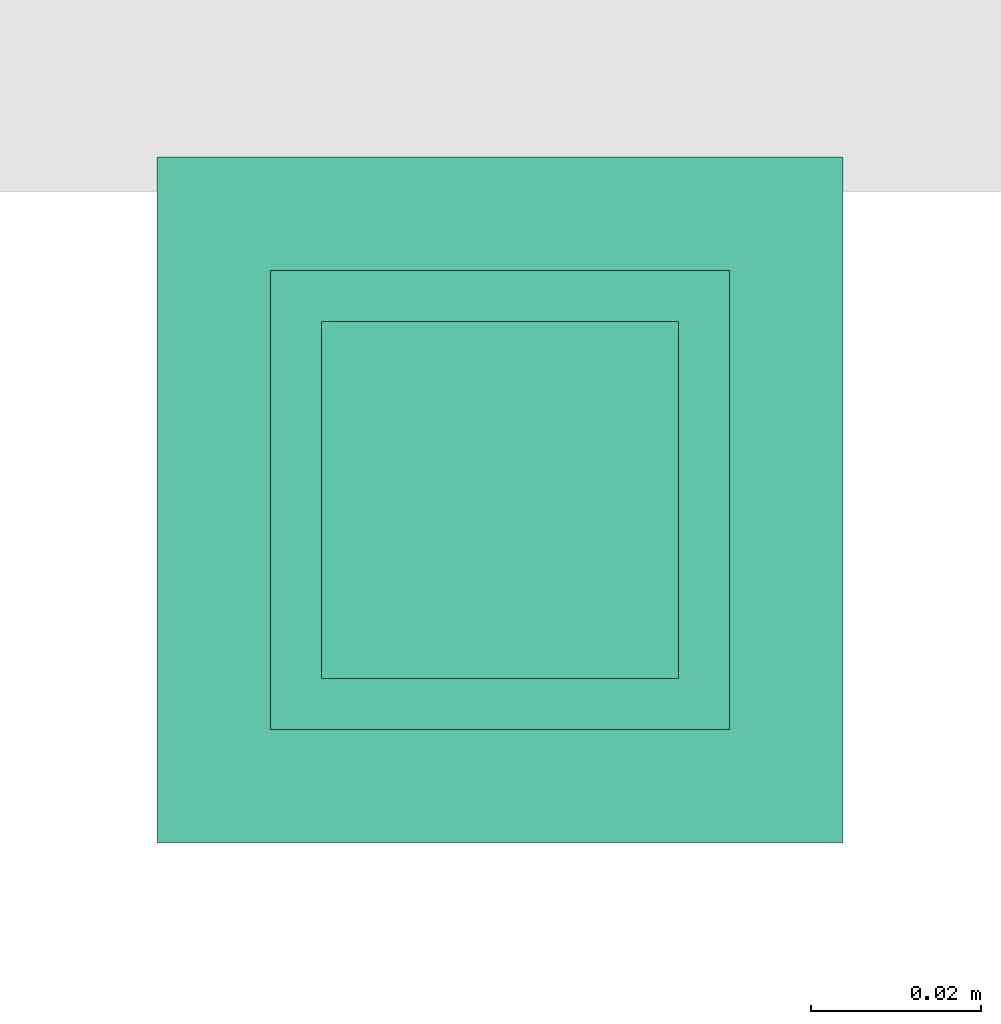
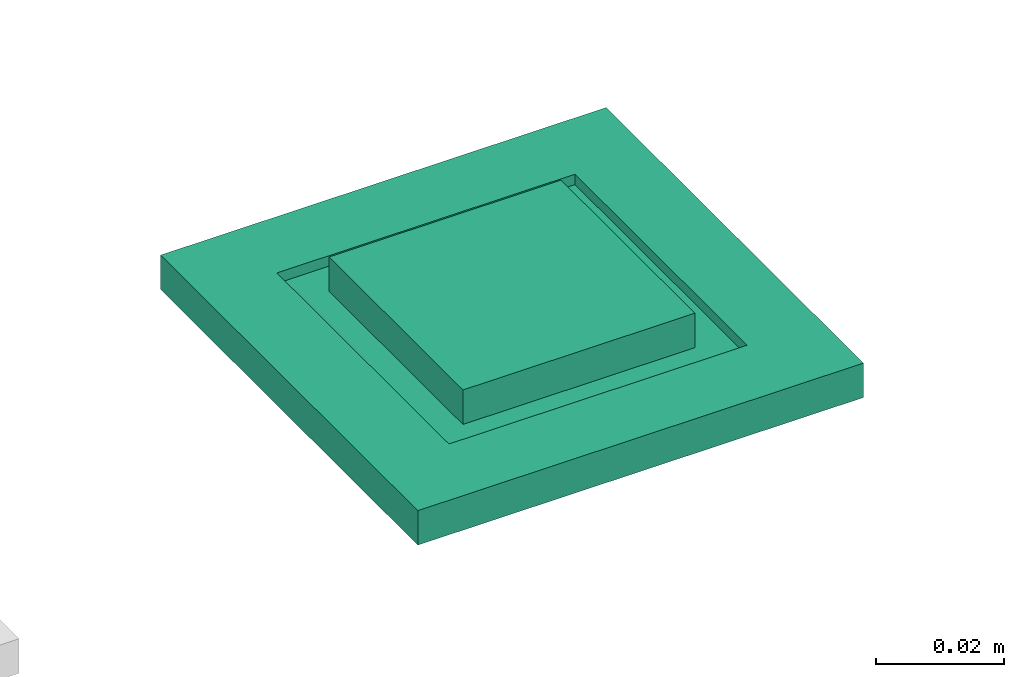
# One storey, part 19 of 146: 1 flow terminal.
"""IFC2X3 building model written with IfcOpenShell, lengths in metres."""

from ifc_helpers import new_model, entity, si_unit, converted_unit, derived_unit, direction, frame, origin, place, context, subcontext, project, spatial, faceted_brep, source, transform, mapped, type_object, type_shapes, element, save


model = new_model("IFC2X3")

# Units and contexts
model_context = context("Model", 3, precision=1e-05, world=origin(), true_north=direction((6.12303176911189e-17, 1.0)))
body_context = subcontext(model_context, "Body", "Model", "MODEL_VIEW")
ifc_project = project(units=[si_unit("LENGTHUNIT", "METRE"), si_unit("AREAUNIT", "SQUARE_METRE"), si_unit("VOLUMEUNIT", "CUBIC_METRE"), converted_unit("PLANEANGLEUNIT", "DEGREE", entity("IfcRatioMeasure", 0.0174532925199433), si_unit("PLANEANGLEUNIT", "RADIAN"), dimensions=[0, 0, 0, 0, 0, 0, 0]), si_unit("MASSUNIT", "GRAM", prefix="KILO"), derived_unit("MASSDENSITYUNIT", [(si_unit("MASSUNIT", "GRAM", prefix="KILO"), 1), (si_unit("LENGTHUNIT", "METRE"), -3)]), si_unit("TIMEUNIT", "SECOND"), si_unit("FREQUENCYUNIT", "HERTZ"), si_unit("THERMODYNAMICTEMPERATUREUNIT", "DEGREE_CELSIUS"), derived_unit("THERMALTRANSMITTANCEUNIT", [(si_unit("MASSUNIT", "GRAM", prefix="KILO"), 1), (si_unit("THERMODYNAMICTEMPERATUREUNIT", "KELVIN"), -1), (si_unit("TIMEUNIT", "SECOND"), -3)]), derived_unit("VOLUMETRICFLOWRATEUNIT", [(si_unit("LENGTHUNIT", "METRE"), 3), (si_unit("TIMEUNIT", "SECOND"), -1)]), si_unit("ELECTRICCURRENTUNIT", "AMPERE"), si_unit("ELECTRICVOLTAGEUNIT", "VOLT"), si_unit("POWERUNIT", "WATT"), si_unit("FORCEUNIT", "NEWTON"), si_unit("ILLUMINANCEUNIT", "LUX"), si_unit("LUMINOUSFLUXUNIT", "LUMEN"), si_unit("LUMINOUSINTENSITYUNIT", "CANDELA"), derived_unit("USERDEFINED", [(si_unit("MASSUNIT", "GRAM", prefix="KILO"), -1), (si_unit("LENGTHUNIT", "METRE"), -2), (si_unit("TIMEUNIT", "SECOND"), 3), (si_unit("LUMINOUSFLUXUNIT", "LUMEN"), 1)]), derived_unit("LINEARVELOCITYUNIT", [(si_unit("LENGTHUNIT", "METRE"), 1), (si_unit("TIMEUNIT", "SECOND"), -1)]), si_unit("PRESSUREUNIT", "PASCAL"), derived_unit("USERDEFINED", [(si_unit("LENGTHUNIT", "METRE"), -2), (si_unit("MASSUNIT", "GRAM", prefix="KILO"), 1), (si_unit("TIMEUNIT", "SECOND"), -2)])], contexts=[model_context])

# Site, building, storey
site_placement = place(None, origin())
site = spatial("IfcSite", under=ifc_project, at=site_placement, Name="Default", CompositionType="ELEMENT")
building_placement = place(site_placement, origin())
building = spatial("IfcBuilding", under=site, at=building_placement, CompositionType="ELEMENT")
storey_placement = place(building_placement, origin())
storey = spatial("IfcBuildingStorey", under=building, at=storey_placement, Name="S01", CompositionType="ELEMENT", Elevation=0.0)

# Flow terminal
electric_appliance_type = type_object("IfcElectricApplianceType", Name="RJ45 IP21", PredefinedType="NOTDEFINED")
shared_shape = source(origin(), body_context, "Body", "Brep", [
    faceted_brep([(0.00200000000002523, 0.0, 0.00799999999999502), (0.00400000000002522, 0.0, 0.00799999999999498), (0.00500000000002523, 0.00199999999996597, 0.00799999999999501), (0.0110000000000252, 0.00199999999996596, 0.00799999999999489), (0.0120000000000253, 0.0, 0.00799999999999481), (0.0140000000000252, 0.0, 0.00799999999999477), (0.0140000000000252, 0.00399999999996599, 0.00799999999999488), (0.00200000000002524, 0.00399999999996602, 0.00799999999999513), (0.00200000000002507, 0.0, 0.0), (0.00200000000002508, 0.00399999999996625, 0.0), (0.0140000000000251, 0.00399999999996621, 0.0), (0.0140000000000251, 0.0, 0.0), (0.0120000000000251, 0.0, 0.0), (0.0110000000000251, 0.00199999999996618, 0.0), (0.00500000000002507, 0.0019999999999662, 0.0), (0.00400000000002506, 0.0, 0.0)], [[[0, 1, 2, 3, 4, 5, 6, 7]], [[8, 9, 10, 11, 12, 13, 14, 15]], [[1, 0, 8, 15]], [[2, 1, 15, 14]], [[3, 2, 14, 13]], [[4, 3, 13, 12]], [[5, 4, 12, 11]], [[6, 5, 11, 10]], [[7, 6, 10, 9]], [[0, 7, 9, 8]]]),
    faceted_brep([(-0.0139999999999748, 0.0, 0.00799999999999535), (-0.0119999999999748, 0.0, 0.00799999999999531), (-0.0109999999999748, 0.00199999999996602, 0.00799999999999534), (-0.00499999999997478, 0.00199999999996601, 0.00799999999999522), (-0.0039999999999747, 0.0, 0.00799999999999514), (-0.00199999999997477, 0.0, 0.0079999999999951), (-0.00199999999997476, 0.00399999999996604, 0.00799999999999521), (-0.0139999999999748, 0.00399999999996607, 0.00799999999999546), (-0.0139999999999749, 0.0, 0.0), (-0.0139999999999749, 0.00399999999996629, 0.0), (-0.00199999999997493, 0.00399999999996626, 0.0), (-0.00199999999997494, 0.0, 0.0), (-0.00399999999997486, 0.0, 0.0), (-0.00499999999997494, 0.00199999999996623, 0.0), (-0.0109999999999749, 0.00199999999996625, 0.0), (-0.0119999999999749, 0.0, 0.0)], [[[0, 1, 2, 3, 4, 5, 6, 7]], [[8, 9, 10, 11, 12, 13, 14, 15]], [[1, 0, 8, 15]], [[2, 1, 15, 14]], [[3, 2, 14, 13]], [[4, 3, 13, 12]], [[5, 4, 12, 11]], [[6, 5, 11, 10]], [[7, 6, 10, 9]], [[0, 7, 9, 8]]]),
    faceted_brep([(0.0140000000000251, 0.00399999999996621, 0.0), (0.00200000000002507, 0.00399999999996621, 0.0), (0.00200000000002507, -0.00350000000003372, 0.0), (0.0140000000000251, -0.00350000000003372, 0.0), (0.0140000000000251, 0.00399999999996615, 0.00199999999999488), (0.00200000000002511, 0.00399999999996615, 0.00199999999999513), (0.00200000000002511, -0.00393859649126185, 0.00199999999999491), (0.0140000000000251, -0.00393859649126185, 0.00199999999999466), (0.0210000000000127, 0.0209999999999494, 0.00199999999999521), (-0.0209999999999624, 0.0209999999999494, 0.00199999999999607), (-0.0209999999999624, -0.0210000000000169, 0.00199999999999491), (0.0210000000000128, -0.0210000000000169, 0.00199999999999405), (-0.0139999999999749, 0.0039999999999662, 0.00199999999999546), (-0.0019999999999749, 0.0039999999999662, 0.00199999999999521), (-0.00199999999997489, -0.0039385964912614, 0.00199999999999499), (-0.0139999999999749, -0.00393859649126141, 0.00199999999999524), (0.0210000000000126, 0.0209999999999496, -0.00460000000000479), (0.0210000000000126, -0.0210000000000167, -0.00460000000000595), (-0.0209999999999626, -0.0210000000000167, -0.00460000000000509), (-0.0209999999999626, 0.0209999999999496, -0.00460000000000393), (-0.00199999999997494, 0.00399999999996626, 0.0), (-0.0139999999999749, 0.00399999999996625, 0.0), (-0.0139999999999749, -0.00350000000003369, 0.0), (-0.00199999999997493, -0.00350000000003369, 0.0)], [[[0, 1, 2, 3]], [[1, 0, 4, 5]], [[2, 1, 5, 6]], [[3, 2, 6, 7]], [[0, 3, 7, 4]], [[5, 4, 7, 6], [8, 9, 10, 11], [12, 13, 14, 15]], [[16, 17, 18, 19]], [[9, 8, 16, 19]], [[10, 9, 19, 18]], [[11, 10, 18, 17]], [[8, 11, 17, 16]], [[20, 21, 22, 23]], [[21, 20, 13, 12]], [[22, 21, 12, 15]], [[23, 22, 15, 14]], [[20, 23, 14, 13]]], outer=[[True], [True], [True], [True], [True], [False, True, False], [True], [True], [True], [True], [True], [True], [True], [True], [True], [True]]),
    faceted_brep([(0.0270000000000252, 0.026999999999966, 0.0113999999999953), (-0.0269999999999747, 0.026999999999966, 0.0113999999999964), (-0.0269999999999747, -0.0270000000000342, 0.0113999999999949), (0.0270000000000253, -0.0270000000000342, 0.0113999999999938), (0.0020000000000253, 0.00399999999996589, 0.0113999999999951), (0.0140000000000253, 0.00399999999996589, 0.0113999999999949), (0.0140000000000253, -0.00600000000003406, 0.0113999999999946), (0.0020000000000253, -0.00600000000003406, 0.0113999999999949), (-0.0139999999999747, 0.00399999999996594, 0.0113999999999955), (-0.00199999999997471, 0.00399999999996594, 0.0113999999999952), (-0.00199999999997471, -0.0060000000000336, 0.0113999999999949), (-0.0139999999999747, -0.00600000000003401, 0.0113999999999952), (0.0270000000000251, 0.0269999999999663, 0.00199999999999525), (0.0270000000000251, -0.0270000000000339, 0.00199999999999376), (-0.0269999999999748, -0.0270000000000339, 0.00199999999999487), (-0.0269999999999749, 0.0269999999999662, 0.00199999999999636), (0.0140000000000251, 0.00399999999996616, 0.00199999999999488), (0.00200000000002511, 0.00399999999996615, 0.00199999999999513), (0.00200000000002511, -0.00393859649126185, 0.00199999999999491), (0.0140000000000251, -0.00393859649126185, 0.00199999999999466), (-0.00199999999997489, 0.0039999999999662, 0.00199999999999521), (-0.0139999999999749, 0.0039999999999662, 0.00199999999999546), (-0.0139999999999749, -0.0039385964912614, 0.00199999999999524), (-0.00199999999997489, -0.0039385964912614, 0.00199999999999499)], [[[0, 1, 2, 3], [4, 5, 6, 7], [8, 9, 10, 11]], [[12, 13, 14, 15], [16, 17, 18, 19], [20, 21, 22, 23]], [[1, 0, 12, 15]], [[2, 1, 15, 14]], [[3, 2, 14, 13]], [[0, 3, 13, 12]], [[4, 17, 16, 5]], [[17, 4, 7, 18]], [[18, 7, 6, 19]], [[5, 16, 19, 6]], [[8, 21, 20, 9]], [[21, 8, 11, 22]], [[22, 11, 10, 23]], [[9, 20, 23, 10]]]),
    faceted_brep([(0.027000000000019, 0.0269999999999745, 0.00659999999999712), (-0.0269999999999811, 0.0269999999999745, 0.00659999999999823), (-0.026999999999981, -0.0270000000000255, 0.00659999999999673), (0.027000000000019, -0.0270000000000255, 0.00659999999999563), (0.040350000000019, 0.0403499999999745, 0.00659999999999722), (0.040350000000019, -0.0403500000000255, 0.00659999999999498), (-0.0403499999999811, -0.0403500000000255, 0.00659999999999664), (-0.0403499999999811, 0.0403499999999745, 0.00659999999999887), (-0.026999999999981, 0.0269999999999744, 0.0103999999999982), (0.027000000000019, 0.0269999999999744, 0.0103999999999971), (-0.026999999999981, -0.0270000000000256, 0.0103999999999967), (0.027000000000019, -0.0270000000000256, 0.0103999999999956)], [[[0, 1, 2, 3], [4, 5, 6, 7]], [[4, 7, 8, 9]], [[7, 6, 10, 8]], [[6, 5, 11, 10]], [[5, 4, 9, 11]], [[0, 9, 8, 1]], [[1, 8, 10, 2]], [[2, 10, 11, 3]], [[9, 0, 3, 11]]], outer=[[False, True], [True], [True], [True], [True], [True], [True], [True], [True]]),
    faceted_brep([(0.040350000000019, 0.0403499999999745, 0.00659999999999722), (-0.0403499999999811, 0.0403499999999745, 0.00659999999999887), (-0.0403499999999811, -0.0403500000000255, 0.00659999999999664), (0.040350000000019, -0.0403500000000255, 0.00659999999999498), (-0.0269999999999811, 0.0269999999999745, 0.00659999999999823), (0.0270000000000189, 0.0269999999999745, 0.00659999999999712), (0.0270000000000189, -0.0270000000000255, 0.00659999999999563), (-0.0269999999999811, -0.0270000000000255, 0.00659999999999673), (0.0403500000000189, 0.0403499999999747, 0.0), (0.0403500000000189, -0.0403500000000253, 0.0), (-0.0403499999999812, -0.0403500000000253, 0.0), (-0.0403499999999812, 0.0403499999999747, 0.0), (0.0270000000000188, 0.0269999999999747, 0.0), (-0.0269999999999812, 0.0269999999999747, 0.0), (-0.0269999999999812, -0.0270000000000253, 0.0), (0.0270000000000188, -0.0270000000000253, 0.0)], [[[0, 1, 2, 3], [4, 5, 6, 7]], [[8, 9, 10, 11], [12, 13, 14, 15]], [[1, 0, 8, 11]], [[2, 1, 11, 10]], [[3, 2, 10, 9]], [[0, 3, 9, 8]], [[12, 5, 4, 13]], [[13, 4, 7, 14]], [[14, 7, 6, 15]], [[5, 12, 15, 6]]]),
])
type_shapes(electric_appliance_type, [shared_shape])
flow_terminal_placement = place(storey_placement, frame((27.9920084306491, -189.582721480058, 3.37), z_axis=(0.0, 0.0, -1.0), x_axis=(-1.0, 0.0, 0.0)))
element("IfcFlowTerminal", 1, at=flow_terminal_placement, inside=storey, type_object=electric_appliance_type, Name="INT_Prise RJ45:RJ45 IP21", ObjectType="INT_Prise RJ45:RJ45 IP21", context=body_context, shape_type="MappedRepresentation", body=[
    mapped(shared_shape, transform((0.0, 0.0, 0.0), scale=1.0)),
])

save(model, "model.ifc")
